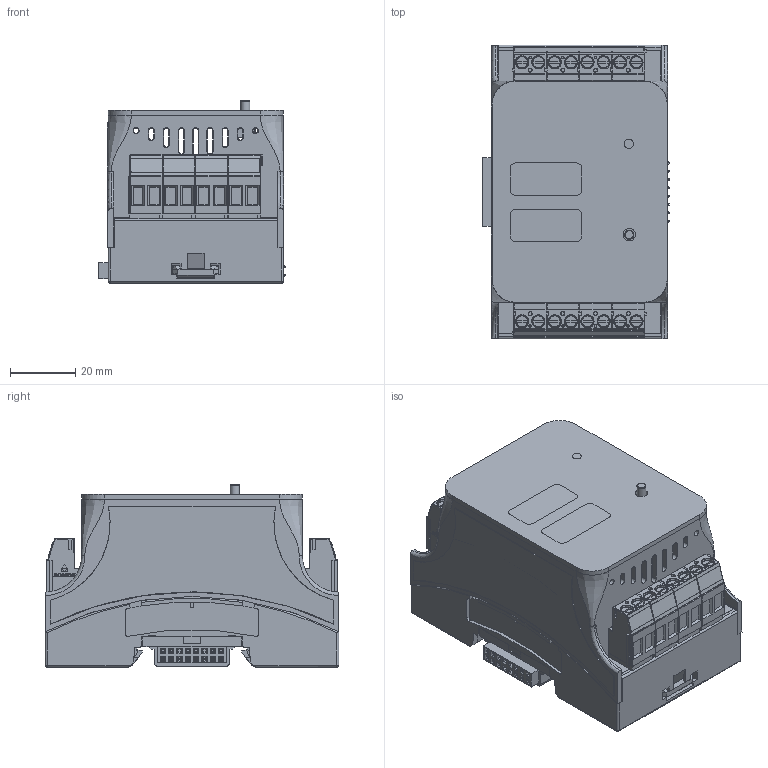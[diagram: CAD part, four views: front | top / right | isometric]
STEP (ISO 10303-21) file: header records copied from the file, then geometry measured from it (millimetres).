
FILE_DESCRIPTION(/* description */ (''),/* implementation_level */ '2;1');
FILE_NAME(/* name */ 'D:\WorkIMT\Project IMT\ИРИС-DIN\v2\!base\3D от Максима\MT.IRIS-DIN.4AI4AO.02.stp',/* time_stamp */ '2026-08-31T11:42:35+03:00',/* author */ ('admin'),/* organization */ (''),/* preprocessor_version */ 'ST-DEVELOPER v17.2',/* originating_system */ 'Autodesk Inventor 2019',/* authorisation */ '');
FILE_SCHEMA (('AUTOMOTIVE_DESIGN { 1 0 10303 214 3 1 1 }'));
Products named in the file (1): MT.IRIS-DIN.4AI4AO.02 для сайта
Bounding box: 57.13 x 89.74 x 55.75 mm (x, y, z)
Volume: 67147.5 mm3; surface area: 73793.6 mm2
Topology: 2 solids, 46 shells, 6701 faces, 18617 edges, 12023 vertices
Faces by surface type: plane 5603, cylinder 566, bspline 225, cone 154, torus 86, sphere 67
Full cylindrical faces by diameter (mm): 1.2 x18, 2.8 x1, 3.8 x1, 4.05 x16
Entity records: 234023 total; most frequent: CARTESIAN_POINT 56579, ORIENTED_EDGE 37096, DIRECTION 32678, EDGE_CURVE 18548, LINE 15706, VECTOR 15706, VERTEX_POINT 12023, AXIS2_PLACEMENT_3D 8486
